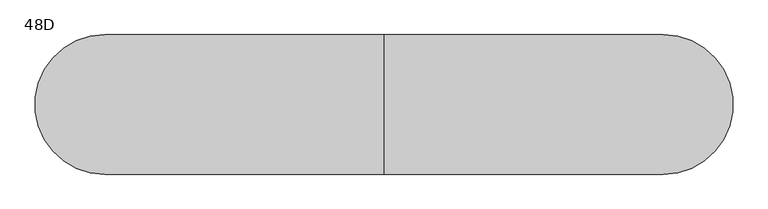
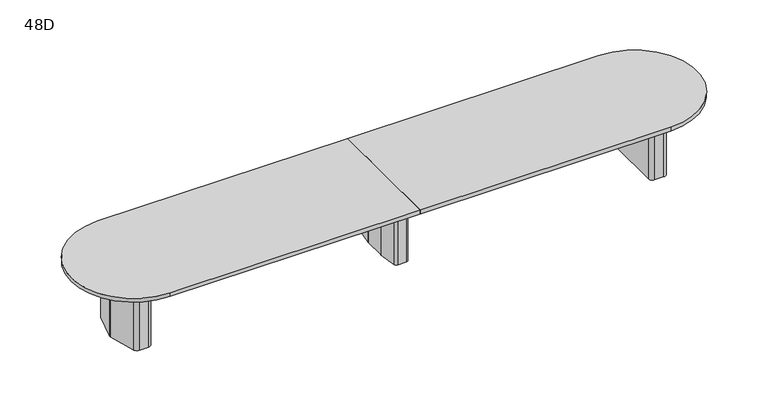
"""IFC4 building model written with IfcOpenShell, lengths in millimetres: furniture geometry, Coalesse_AM_Table_Conference_ETable2_Racetrack_20ft_ThreeBase : 48D."""

from ifc_helpers import new_model, si_unit, point, frame, frame_2d, origin, place, context, project, spatial, polyline, circle_curve, trimmed, segment, composite_curve, outline, extrude, source, transform, mapped, element, save
from ifc_brep_helpers import plane_surface, cylinder_surface, revolved_surface, advanced_brep


def furniture_48d_48fad50a(model_context):
    return source(origin(), model_context, "Body", "SolidModel", [
        advanced_brep(
        [(35.71875, 206.375, 3.175), (10.31875, 231.775, 3.175), (-10.31875, 231.775, 3.175), (-35.71875, 206.375, 3.175), (-35.71875, -206.375, 3.175), (-10.31875, -231.775, 3.175), (10.31875, -231.775, 3.175), (35.71875, -206.375, 3.175), (-61.11875, 206.375, 0.0), (-10.31875, 257.175, 0.0), (10.31875, 257.175, 0.0), (61.11875, 206.375, 0.0), (61.11875, -206.375, 0.0), (10.31875, -257.175, 0.0), (-10.31875, -257.175, 0.0), (-61.11875, -206.375, 0.0), (-61.11875, -206.375, 3.175), (-61.11875, 206.375, 3.175), (-10.31875, -257.175, 3.175), (10.31875, -257.175, 3.175), (61.11875, -206.375, 3.175), (61.11875, 206.375, 3.175), (10.31875, 257.175, 3.175), (-10.31875, 257.175, 3.175), (-92.6215974, 106.2976848, 698.5), (-92.86875, 102.7629613, 698.5), (-92.86875, -102.7629613, 698.5), (-92.6215974, -106.2976848, 698.5), (-67.7988375, -282.9347235, 698.5), (-42.6459902, -304.8, 698.5), (42.6459902, -304.8, 698.5), (67.7988375, -282.9347235, 698.5), (92.6215974, -106.2976848, 698.5), (92.86875, -102.7629613, 698.5), (92.86875, 102.7629613, 698.5), (92.6215974, 106.2976848, 698.5), (67.7988375, 282.9347235, 698.5), (42.6459902, 304.8, 698.5), (-42.6459902, 304.8, 698.5), (-67.7988375, 282.9347235, 698.5), (10.31875, 231.775, 698.5), (35.71875, 206.375, 698.5), (35.71875, -206.375, 698.5), (10.31875, -231.775, 698.5), (-10.31875, -231.775, 698.5), (-35.71875, -206.375, 698.5), (-35.71875, 206.375, 698.5), (-10.31875, 231.775, 698.5), (-92.6215974, 106.2976848, 3.175), (-67.7988375, 282.9347235, 3.175), (-42.6459902, 304.8, 3.175), (42.6459902, 304.8, 3.175), (67.7988375, 282.9347235, 3.175), (92.6215974, 106.2976848, 3.175), (92.86875, 102.7629613, 3.175), (92.86875, -102.7629613, 3.175), (92.6215974, -106.2976848, 3.175), (67.7988375, -282.9347235, 3.175), (42.6459902, -304.8, 3.175), (-42.6459902, -304.8, 3.175), (-67.7988375, -282.9347235, 3.175), (-92.6215974, -106.2976848, 3.175), (-92.86875, -102.7629613, 3.175), (-92.86875, 102.7629613, 3.175)],
        [
            (0, 1, circle_curve(frame((10.31875, 206.375, 3.175), z_axis=(0.0, 0.0, 1.0), x_axis=(1.0, 0.0, 0.0)), 25.4)),
            (1, 2),
            (2, 3, circle_curve(frame((-10.31875, 206.375, 3.175), z_axis=(0.0, 0.0, 1.0), x_axis=(1.0, 0.0, 0.0)), 25.4)),
            (3, 4),
            (4, 5, circle_curve(frame((-10.31875, -206.375, 3.175), z_axis=(0.0, 0.0, 1.0), x_axis=(1.0, 0.0, 0.0)), 25.4)),
            (5, 6),
            (6, 7, circle_curve(frame((10.31875, -206.375, 3.175), z_axis=(0.0, 0.0, 1.0), x_axis=(1.0, 0.0, 0.0)), 25.4)),
            (7, 0),
            (8, 9, circle_curve(frame((-10.31875, 206.375, 0.0), z_axis=(0.0, 0.0, -1.0), x_axis=(1.0, 0.0, 0.0)), 50.8)),
            (9, 10),
            (10, 11, circle_curve(frame((10.31875, 206.375, 0.0), z_axis=(0.0, 0.0, -1.0), x_axis=(1.0, 0.0, 0.0)), 50.8)),
            (11, 12),
            (12, 13, circle_curve(frame((10.31875, -206.375, 0.0), z_axis=(0.0, 0.0, -1.0), x_axis=(1.0, 0.0, 0.0)), 50.8)),
            (13, 14),
            (14, 15, circle_curve(frame((-10.31875, -206.375, 0.0), z_axis=(0.0, 0.0, -1.0), x_axis=(1.0, 0.0, 0.0)), 50.8)),
            (15, 8),
            (15, 16),
            (16, 17),
            (17, 8),
            (14, 18),
            (18, 16, circle_curve(frame((-10.31875, -206.375, 3.175), z_axis=(0.0, 0.0, -1.0), x_axis=(1.0, 0.0, 0.0)), 50.8)),
            (13, 19),
            (19, 18),
            (12, 20),
            (20, 19, circle_curve(frame((10.31875, -206.375, 3.175), z_axis=(0.0, 0.0, -1.0), x_axis=(1.0, 0.0, 0.0)), 50.8)),
            (11, 21),
            (21, 20),
            (10, 22),
            (22, 21, circle_curve(frame((10.31875, 206.375, 3.175), z_axis=(0.0, 0.0, -1.0), x_axis=(1.0, 0.0, 0.0)), 50.8)),
            (9, 23),
            (23, 22),
            (17, 23, circle_curve(frame((-10.31875, 206.375, 3.175), z_axis=(0.0, 0.0, -1.0), x_axis=(1.0, 0.0, 0.0)), 50.8)),
            (24, 25, circle_curve(frame((-67.46875, 102.7629613, 698.5), z_axis=(0.0, 0.0, 1.0), x_axis=(1.0, 0.0, 0.0)), 25.4)),
            (25, 26),
            (26, 27, circle_curve(frame((-67.46875, -102.7629613, 698.5), z_axis=(0.0, 0.0, 1.0), x_axis=(1.0, 0.0, 0.0)), 25.4)),
            (27, 28),
            (28, 29, circle_curve(frame((-42.6459902, -279.4, 698.5), z_axis=(0.0, 0.0, 1.0), x_axis=(1.0, 0.0, 0.0)), 25.4)),
            (29, 30),
            (30, 31, circle_curve(frame((42.6459902, -279.4, 698.5), z_axis=(0.0, 0.0, 1.0), x_axis=(1.0, 0.0, 0.0)), 25.4)),
            (31, 32),
            (32, 33, circle_curve(frame((67.46875, -102.7629613, 698.5), z_axis=(0.0, 0.0, 1.0), x_axis=(1.0, 0.0, 0.0)), 25.4)),
            (33, 34),
            (34, 35, circle_curve(frame((67.46875, 102.7629613, 698.5), z_axis=(0.0, 0.0, 1.0), x_axis=(1.0, 0.0, 0.0)), 25.4)),
            (35, 36),
            (36, 37, circle_curve(frame((42.6459902, 279.4, 698.5), z_axis=(0.0, 0.0, 1.0), x_axis=(1.0, 0.0, 0.0)), 25.4)),
            (37, 38),
            (38, 39, circle_curve(frame((-42.6459902, 279.4, 698.5), z_axis=(0.0, 0.0, 1.0), x_axis=(1.0, 0.0, 0.0)), 25.4)),
            (39, 24),
            (40, 41, circle_curve(frame((10.31875, 206.375, 698.5), z_axis=(0.0, 0.0, -1.0), x_axis=(1.0, 0.0, 0.0)), 25.4)),
            (41, 42),
            (42, 43, circle_curve(frame((10.31875, -206.375, 698.5), z_axis=(0.0, 0.0, -1.0), x_axis=(1.0, 0.0, 0.0)), 25.4)),
            (43, 44),
            (44, 45, circle_curve(frame((-10.31875, -206.375, 698.5), z_axis=(0.0, 0.0, -1.0), x_axis=(1.0, 0.0, 0.0)), 25.4)),
            (45, 46),
            (46, 47, circle_curve(frame((-10.31875, 206.375, 698.5), z_axis=(0.0, 0.0, -1.0), x_axis=(1.0, 0.0, 0.0)), 25.4)),
            (47, 40),
            (48, 49),
            (49, 50, circle_curve(frame((-42.6459902, 279.4, 3.175), z_axis=(0.0, 0.0, -1.0), x_axis=(1.0, 0.0, 0.0)), 25.4)),
            (50, 51),
            (51, 52, circle_curve(frame((42.6459902, 279.4, 3.175), z_axis=(0.0, 0.0, -1.0), x_axis=(1.0, 0.0, 0.0)), 25.4)),
            (52, 53),
            (53, 54, circle_curve(frame((67.46875, 102.7629613, 3.175), z_axis=(0.0, 0.0, -1.0), x_axis=(1.0, 0.0, 0.0)), 25.4)),
            (54, 55),
            (55, 56, circle_curve(frame((67.46875, -102.7629613, 3.175), z_axis=(0.0, 0.0, -1.0), x_axis=(1.0, 0.0, 0.0)), 25.4)),
            (56, 57),
            (57, 58, circle_curve(frame((42.6459902, -279.4, 3.175), z_axis=(0.0, 0.0, -1.0), x_axis=(1.0, 0.0, 0.0)), 25.4)),
            (58, 59),
            (59, 60, circle_curve(frame((-42.6459902, -279.4, 3.175), z_axis=(0.0, 0.0, -1.0), x_axis=(1.0, 0.0, 0.0)), 25.4)),
            (60, 61),
            (61, 62, circle_curve(frame((-67.46875, -102.7629613, 3.175), z_axis=(0.0, 0.0, -1.0), x_axis=(1.0, 0.0, 0.0)), 25.4)),
            (62, 63),
            (63, 48, circle_curve(frame((-67.46875, 102.7629613, 3.175), z_axis=(0.0, 0.0, -1.0), x_axis=(1.0, 0.0, 0.0)), 25.4)),
            (24, 48),
            (63, 25),
            (62, 26),
            (61, 27),
            (60, 28),
            (59, 29),
            (58, 30),
            (57, 31),
            (56, 32),
            (55, 33),
            (54, 34),
            (53, 35),
            (52, 36),
            (51, 37),
            (50, 38),
            (49, 39),
            (40, 1),
            (0, 41),
            (7, 42),
            (6, 43),
            (5, 44),
            (4, 45),
            (3, 46),
            (2, 47),
        ],
        [
            plane_surface(frame((-61.11875, -206.375, 3.175), z_axis=(0.0, 0.0, 1.0), x_axis=(0.0, -1.0, 0.0))),
            plane_surface(frame((-61.11875, -206.375, 0.0), z_axis=(0.0, 0.0, -1.0), x_axis=(0.0, 1.0, 0.0))),
            plane_surface(frame((-61.11875, 206.375, 3.175), z_axis=(-1.0, 0.0, 0.0), x_axis=(0.0, 0.0, -1.0))),
            cylinder_surface(frame((-10.31875, -206.375, 0.0), z_axis=(0.0, 0.0, 1.0), x_axis=(1.0, 0.0, 0.0)), 50.8),
            plane_surface(frame((-10.31875, -257.175, 3.175), z_axis=(0.0, -1.0, 0.0), x_axis=(0.0, 0.0, -1.0))),
            cylinder_surface(frame((10.31875, -206.375, 0.0), z_axis=(0.0, 0.0, 1.0), x_axis=(1.0, 0.0, 0.0)), 50.8),
            plane_surface(frame((61.11875, -206.375, 3.175), z_axis=(1.0, 0.0, 0.0), x_axis=(0.0, 0.0, -1.0))),
            cylinder_surface(frame((10.31875, 206.375, 0.0), z_axis=(0.0, 0.0, 1.0), x_axis=(1.0, 0.0, 0.0)), 50.8),
            plane_surface(frame((10.31875, 257.175, 3.175), z_axis=(0.0, 1.0, 0.0), x_axis=(0.0, 0.0, -1.0))),
            cylinder_surface(frame((-10.31875, 206.375, 0.0), z_axis=(0.0, 0.0, 1.0), x_axis=(1.0, 0.0, 0.0)), 50.8),
            plane_surface(frame((-42.06875, 102.7629613, 698.5), z_axis=(0.0, 0.0, 1.0), x_axis=(0.0, 1.0, 0.0))),
            plane_surface(frame((-42.06875, 102.7629613, 3.175), z_axis=(0.0, 0.0, -1.0), x_axis=(0.0, -1.0, 0.0))),
            cylinder_surface(frame((-67.46875, 102.7629613, 3.175), z_axis=(0.0, 0.0, 1.0), x_axis=(1.0, 0.0, 0.0)), 25.4),
            plane_surface(frame((-92.86875, 102.7629613, 698.5), z_axis=(-1.0, 0.0, 0.0), x_axis=(0.0, 0.0, -1.0))),
            cylinder_surface(frame((-67.46875, -102.7629613, 3.175), z_axis=(0.0, 0.0, 1.0), x_axis=(1.0, 0.0, 0.0)), 25.4),
            plane_surface(frame((-92.6215974, -106.2976848, 698.5), z_axis=(-0.9902695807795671, -0.13916234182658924, 0.0), x_axis=(0.0, 0.0, -1.0))),
            cylinder_surface(frame((-42.6459902, -279.4, 3.175), z_axis=(0.0, 0.0, 1.0), x_axis=(1.0, 0.0, 0.0)), 25.4),
            plane_surface(frame((-42.6459902, -304.8, 698.5), z_axis=(0.0, -1.0, 0.0), x_axis=(0.0, 0.0, -1.0))),
            cylinder_surface(frame((42.6459902, -279.4, 3.175), z_axis=(0.0, 0.0, 1.0), x_axis=(1.0, 0.0, 0.0)), 25.4),
            plane_surface(frame((67.7988375, -282.9347235, 698.5), z_axis=(0.9902695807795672, -0.13916234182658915, 0.0), x_axis=(0.0, 0.0, -1.0))),
            cylinder_surface(frame((67.46875, -102.7629613, 3.175), z_axis=(0.0, 0.0, 1.0), x_axis=(1.0, 0.0, 0.0)), 25.4),
            plane_surface(frame((92.86875, -102.7629613, 698.5), z_axis=(1.0, 0.0, 0.0), x_axis=(0.0, 0.0, -1.0))),
            cylinder_surface(frame((67.46875, 102.7629613, 3.175), z_axis=(0.0, 0.0, 1.0), x_axis=(1.0, 0.0, 0.0)), 25.4),
            plane_surface(frame((92.6215974, 106.2976848, 698.5), z_axis=(0.9902695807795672, 0.1391623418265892, 0.0), x_axis=(0.0, 0.0, -1.0))),
            cylinder_surface(frame((42.6459902, 279.4, 3.175), z_axis=(0.0, 0.0, 1.0), x_axis=(1.0, 0.0, 0.0)), 25.4),
            plane_surface(frame((42.6459902, 304.8, 698.5), z_axis=(0.0, 1.0, 0.0), x_axis=(0.0, 0.0, -1.0))),
            cylinder_surface(frame((-42.6459902, 279.4, 3.175), z_axis=(0.0, 0.0, 1.0), x_axis=(1.0, 0.0, 0.0)), 25.4),
            plane_surface(frame((-67.7988375, 282.9347235, 698.5), z_axis=(-0.9902695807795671, 0.13916234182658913, 0.0), x_axis=(0.0, 0.0, -1.0))),
            revolved_surface(polyline([(35.71875, 206.375, 3.175), (35.71875, 206.375, 698.5)]), (10.31875, 206.375, 0.0), (0.0, 0.0, -1.0)),
            plane_surface(frame((35.71875, 206.375, 698.5), z_axis=(-1.0, 0.0, 0.0), x_axis=(0.0, 0.0, -1.0))),
            revolved_surface(polyline([(35.71875, -206.375, 3.175), (35.71875, -206.375, 698.5)]), (10.31875, -206.375, 0.0), (0.0, 0.0, -1.0)),
            plane_surface(frame((10.31875, -231.775, 698.5), z_axis=(0.0, 1.0, 0.0), x_axis=(0.0, 0.0, -1.0))),
            revolved_surface(polyline([(15.081249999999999, -206.375, 3.175), (15.081249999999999, -206.375, 698.5)]), (-10.31875, -206.375, 0.0), (0.0, 0.0, -1.0)),
            plane_surface(frame((-35.71875, -206.375, 698.5), z_axis=(1.0, 0.0, 0.0), x_axis=(0.0, 0.0, -1.0))),
            revolved_surface(polyline([(15.081249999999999, 206.375, 3.175), (15.081249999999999, 206.375, 698.5)]), (-10.31875, 206.375, 0.0), (0.0, 0.0, -1.0)),
            plane_surface(frame((-10.31875, 231.775, 698.5), z_axis=(0.0, -1.0, 0.0), x_axis=(0.0, 0.0, -1.0))),
        ],
        [
            (0, [[1, 2, 3, 4, 5, 6, 7, 8]]),
            (1, [[9, 10, 11, 12, 13, 14, 15, 16]]),
            (2, [[-16, 17, 18, 19]]),
            (3, [[-15, 20, 21, -17]]),
            (4, [[-14, 22, 23, -20]]),
            (5, [[-13, 24, 25, -22]]),
            (6, [[-12, 26, 27, -24]]),
            (7, [[-11, 28, 29, -26]]),
            (8, [[-10, 30, 31, -28]]),
            (9, [[-9, -19, 32, -30]]),
            (10, [[33, 34, 35, 36, 37, 38, 39, 40, 41, 42, 43, 44, 45, 46, 47, 48], [49, 50, 51, 52, 53, 54, 55, 56]]),
            (11, [[57, 58, 59, 60, 61, 62, 63, 64, 65, 66, 67, 68, 69, 70, 71, 72], [-18, -21, -23, -25, -27, -29, -31, -32]]),
            (12, [[-33, 73, -72, 74]]),
            (13, [[-34, -74, -71, 75]]),
            (14, [[-35, -75, -70, 76]]),
            (15, [[-36, -76, -69, 77]]),
            (16, [[-37, -77, -68, 78]]),
            (17, [[-38, -78, -67, 79]]),
            (18, [[-39, -79, -66, 80]]),
            (19, [[-40, -80, -65, 81]]),
            (20, [[-41, -81, -64, 82]]),
            (21, [[-42, -82, -63, 83]]),
            (22, [[-43, -83, -62, 84]]),
            (23, [[-44, -84, -61, 85]]),
            (24, [[-45, -85, -60, 86]]),
            (25, [[-46, -86, -59, 87]]),
            (26, [[-47, -87, -58, 88]]),
            (27, [[-48, -88, -57, -73]]),
            (28, [[-49, 89, -1, 90]]),
            (29, [[-50, -90, -8, 91]]),
            (30, [[-51, -91, -7, 92]]),
            (31, [[-52, -92, -6, 93]]),
            (32, [[-53, -93, -5, 94]]),
            (33, [[-54, -94, -4, 95]]),
            (34, [[-55, -95, -3, 96]]),
            (35, [[-56, -96, -2, -89]]),
        ],
    ),
        advanced_brep(
        [(2589.424548, 274.2093613, 698.5), (2549.5579246, 304.8, 698.5), (2460.625, 304.8, 698.5), (2419.35, 263.525, 698.5), (2419.35, -263.525, 698.5), (2460.625, -304.8, 698.5), (2549.5579246, -304.8, 698.5), (2589.424548, -274.2093613, 698.5), (2660.0503901, -10.6333708, 698.5), (2660.0503901, 10.6333708, 698.5), (2457.45, -206.375, 698.5), (2457.45, 206.375, 698.5), (2482.85, 231.775, 698.5), (2541.8608422, 231.775, 698.5), (2566.395338, 212.9490792, 698.5), (2605.0875, 68.54974, 698.5), (2605.0875, -68.54974, 698.5), (2566.395338, -212.9490792, 698.5), (2541.8608422, -231.775, 698.5), (2482.85, -231.775, 698.5), (2589.424548, 274.2093613, 3.175), (2660.0503901, 10.6333708, 3.175), (2660.0503901, -10.6333708, 3.175), (2589.424548, -274.2093613, 3.175), (2549.5579246, -304.8, 3.175), (2460.625, -304.8, 3.175), (2419.35, -263.525, 3.175), (2419.35, 263.525, 3.175), (2460.625, 304.8, 3.175), (2549.5579246, 304.8, 3.175), (2578.6625859, 216.2361187, 3.175), (2541.8608422, 244.475, 3.175), (2482.85, 244.475, 3.175), (2444.75, 206.375, 3.175), (2444.75, -206.375, 3.175), (2482.85, -244.475, 3.175), (2541.8608422, -244.475, 3.175), (2578.6625859, -216.2361187, 3.175), (2617.7875, -70.2217466, 3.175), (2617.7875, 70.2217466, 3.175), (2482.85, -231.775, 3.175), (2457.45, -206.375, 3.175), (2541.8608422, -231.775, 3.175), (2566.395338, -212.9490792, 3.175), (2605.0875, -68.54974, 3.175), (2605.0875, 68.54974, 3.175), (2566.395338, 212.9490792, 3.175), (2541.8608422, 231.775, 3.175), (2482.85, 231.775, 3.175), (2457.45, 206.375, 3.175), (2578.6625859, 216.2361187, 0.0), (2617.7875, 70.2217466, 0.0), (2617.7875, -70.2217466, 0.0), (2578.6625859, -216.2361187, 0.0), (2541.8608422, -244.475, 0.0), (2482.85, -244.475, 0.0), (2444.75, -206.375, 0.0), (2444.75, 206.375, 0.0), (2482.85, 244.475, 0.0), (2541.8608422, 244.475, 0.0)],
        [
            (0, 1, circle_curve(frame((2549.5579246, 263.5270004, 698.5), z_axis=(0.0, 0.0, 1.0), x_axis=(-1.0, 0.0, 0.0)), 41.2729996)),
            (1, 2),
            (2, 3, circle_curve(frame((2460.625, 263.525, 698.5), z_axis=(0.0, 0.0, 1.0), x_axis=(-1.0, 0.0, 0.0)), 41.275)),
            (3, 4),
            (4, 5, circle_curve(frame((2460.625, -263.525, 698.5), z_axis=(0.0, 0.0, 1.0), x_axis=(-1.0, 0.0, 0.0)), 41.275)),
            (5, 6),
            (6, 7, circle_curve(frame((2549.5579246, -263.5270004, 698.5), z_axis=(0.0, 0.0, 1.0), x_axis=(-1.0, 0.0, 0.0)), 41.2729996)),
            (7, 8),
            (8, 9, circle_curve(frame((2620.3665979, 0.0, 698.5), z_axis=(0.0, 0.0, 1.0), x_axis=(-1.0, 0.0, 0.0)), 41.0837187)),
            (9, 0),
            (10, 11),
            (11, 12, circle_curve(frame((2482.85, 206.375, 698.5), z_axis=(0.0, 0.0, -1.0), x_axis=(-1.0, 0.0, 0.0)), 25.4)),
            (12, 13),
            (13, 14, circle_curve(frame((2541.8608422, 206.375, 698.5), z_axis=(0.0, 0.0, -1.0), x_axis=(-1.0, 0.0, 0.0)), 25.4)),
            (14, 15),
            (15, 16),
            (16, 17),
            (17, 18, circle_curve(frame((2541.8608422, -206.375, 698.5), z_axis=(0.0, 0.0, -1.0), x_axis=(-1.0, 0.0, 0.0)), 25.4)),
            (18, 19),
            (19, 10, circle_curve(frame((2482.85, -206.375, 698.5), z_axis=(0.0, 0.0, -1.0), x_axis=(-1.0, 0.0, 0.0)), 25.4)),
            (20, 21),
            (21, 22, circle_curve(frame((2620.3665979, 0.0, 3.175), z_axis=(0.0, 0.0, -1.0), x_axis=(-1.0, 0.0, 0.0)), 41.0837187)),
            (22, 23),
            (23, 24, circle_curve(frame((2549.5579246, -263.5270004, 3.175), z_axis=(0.0, 0.0, -1.0), x_axis=(-1.0, 0.0, 0.0)), 41.2729996)),
            (24, 25),
            (25, 26, circle_curve(frame((2460.625, -263.525, 3.175), z_axis=(0.0, 0.0, -1.0), x_axis=(-1.0, 0.0, 0.0)), 41.275)),
            (26, 27),
            (27, 28, circle_curve(frame((2460.625, 263.525, 3.175), z_axis=(0.0, 0.0, -1.0), x_axis=(-1.0, 0.0, 0.0)), 41.275)),
            (28, 29),
            (29, 20, circle_curve(frame((2549.5579246, 263.5270004, 3.175), z_axis=(0.0, 0.0, -1.0), x_axis=(-1.0, 0.0, 0.0)), 41.2729996)),
            (30, 31, circle_curve(frame((2541.8608422, 206.375, 3.175), z_axis=(0.0, 0.0, 1.0), x_axis=(-1.0, 0.0, 0.0)), 38.1)),
            (31, 32),
            (32, 33, circle_curve(frame((2482.85, 206.375, 3.175), z_axis=(0.0, 0.0, 1.0), x_axis=(-1.0, 0.0, 0.0)), 38.1)),
            (33, 34),
            (34, 35, circle_curve(frame((2482.85, -206.375, 3.175), z_axis=(0.0, 0.0, 1.0), x_axis=(-1.0, 0.0, 0.0)), 38.1)),
            (35, 36),
            (36, 37, circle_curve(frame((2541.8608422, -206.375, 3.175), z_axis=(0.0, 0.0, 1.0), x_axis=(-1.0, 0.0, 0.0)), 38.1)),
            (37, 38),
            (38, 39),
            (39, 30),
            (9, 21),
            (20, 0),
            (8, 22),
            (7, 23),
            (6, 24),
            (5, 25),
            (4, 26),
            (3, 27),
            (2, 28),
            (1, 29),
            (19, 40),
            (40, 41, circle_curve(frame((2482.85, -206.375, 3.175), z_axis=(0.0, 0.0, -1.0), x_axis=(-1.0, 0.0, 0.0)), 25.4)),
            (41, 10),
            (18, 42),
            (42, 40),
            (17, 43),
            (43, 42, circle_curve(frame((2541.8608422, -206.375, 3.175), z_axis=(0.0, 0.0, -1.0), x_axis=(-1.0, 0.0, 0.0)), 25.4)),
            (16, 44),
            (44, 43),
            (15, 45),
            (45, 44),
            (14, 46),
            (46, 45),
            (13, 47),
            (47, 46, circle_curve(frame((2541.8608422, 206.375, 3.175), z_axis=(0.0, 0.0, -1.0), x_axis=(-1.0, 0.0, 0.0)), 25.4)),
            (12, 48),
            (48, 47),
            (11, 49),
            (49, 48, circle_curve(frame((2482.85, 206.375, 3.175), z_axis=(0.0, 0.0, -1.0), x_axis=(-1.0, 0.0, 0.0)), 25.4)),
            (41, 49),
            (50, 51),
            (51, 52),
            (52, 53),
            (53, 54, circle_curve(frame((2541.8608422, -206.375, 0.0), z_axis=(0.0, 0.0, -1.0), x_axis=(-1.0, 0.0, 0.0)), 38.1)),
            (54, 55),
            (55, 56, circle_curve(frame((2482.85, -206.375, 0.0), z_axis=(0.0, 0.0, -1.0), x_axis=(-1.0, 0.0, 0.0)), 38.1)),
            (56, 57),
            (57, 58, circle_curve(frame((2482.85, 206.375, 0.0), z_axis=(0.0, 0.0, -1.0), x_axis=(-1.0, 0.0, 0.0)), 38.1)),
            (58, 59),
            (59, 50, circle_curve(frame((2541.8608422, 206.375, 0.0), z_axis=(0.0, 0.0, -1.0), x_axis=(-1.0, 0.0, 0.0)), 38.1)),
            (50, 30),
            (39, 51),
            (38, 52),
            (37, 53),
            (36, 54),
            (35, 55),
            (34, 56),
            (33, 57),
            (32, 58),
            (31, 59),
        ],
        [
            plane_surface(frame((2660.0374275, 10.6817473, 698.5), z_axis=(0.0, 0.0, 1.0000000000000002), x_axis=(0.25882201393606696, -0.9659250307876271, 0.0))),
            plane_surface(frame((2660.0374275, 10.6817473, 3.175), z_axis=(0.0, 0.0, -1.0000000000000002), x_axis=(-0.25882201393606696, 0.9659250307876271, 0.0))),
            plane_surface(frame((2589.424548, 274.2093613, 698.5), z_axis=(0.9659250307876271, 0.25882201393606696, 0.0), x_axis=(0.0, 0.0, -1.0))),
            cylinder_surface(frame((2620.3665979, 0.0, 3.175), z_axis=(0.0, 0.0, 1.0), x_axis=(-1.0, 0.0, 0.0)), 41.0837187),
            plane_surface(frame((2660.0503901, -10.6333708, 698.5), z_axis=(0.9659250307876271, -0.2588220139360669, 0.0), x_axis=(0.0, 0.0, -1.0))),
            cylinder_surface(frame((2549.5579246, -263.5270004, 3.175), z_axis=(0.0, 0.0, 1.0), x_axis=(-1.0, 0.0, 0.0)), 41.2729996),
            plane_surface(frame((2549.5579246, -304.8, 698.5), z_axis=(0.0, -1.0, 0.0), x_axis=(0.0, 0.0, -1.0))),
            cylinder_surface(frame((2460.625, -263.525, 3.175), z_axis=(0.0, 0.0, 1.0), x_axis=(-1.0, 0.0, 0.0)), 41.275),
            plane_surface(frame((2419.35, -263.525, 698.5), z_axis=(-1.0, 0.0, 0.0), x_axis=(0.0, 0.0, -1.0))),
            cylinder_surface(frame((2460.625, 263.525, 3.175), z_axis=(0.0, 0.0, 1.0), x_axis=(-1.0, 0.0, 0.0)), 41.275),
            plane_surface(frame((2460.625, 304.8, 698.5), z_axis=(0.0, 1.0, 0.0), x_axis=(0.0, 0.0, -1.0))),
            cylinder_surface(frame((2549.5579246, 263.5270004, 3.175), z_axis=(0.0, 0.0, 1.0), x_axis=(-1.0, 0.0, 0.0)), 41.2729996),
            revolved_surface(polyline([(2457.45, -206.375, 3.175), (2457.45, -206.375, 698.5)]), (2482.85, -206.375, 0.0), (0.0, 0.0, -1.0)),
            plane_surface(frame((2482.85, -231.775, 698.5), z_axis=(0.0, 1.0, 0.0), x_axis=(0.0, 0.0, -1.0))),
            revolved_surface(polyline([(2516.4608422, -206.375, 3.175), (2516.4608422, -206.375, 698.5)]), (2541.8608422, -206.375, 0.0), (0.0, 0.0, -1.0)),
            plane_surface(frame((2566.395338, -212.9490792, 698.5), z_axis=(-0.9659250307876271, 0.2588220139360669, 0.0), x_axis=(0.0, 0.0, -1.0))),
            plane_surface(frame((2605.0875, -68.54974, 698.5), z_axis=(-1.0, 0.0, 0.0), x_axis=(0.0, 0.0, -1.0))),
            plane_surface(frame((2605.0875, 68.54974, 698.5), z_axis=(-0.9659250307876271, -0.25882201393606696, 0.0), x_axis=(0.0, 0.0, -1.0))),
            revolved_surface(polyline([(2516.4608422, 206.375, 3.175), (2516.4608422, 206.375, 698.5)]), (2541.8608422, 206.375, 0.0), (0.0, 0.0, -1.0)),
            plane_surface(frame((2541.8608422, 231.775, 698.5), z_axis=(0.0, -1.0, 0.0), x_axis=(0.0, 0.0, -1.0))),
            revolved_surface(polyline([(2457.45, 206.375, 3.175), (2457.45, 206.375, 698.5)]), (2482.85, 206.375, 0.0), (0.0, 0.0, -1.0)),
            plane_surface(frame((2457.45, 206.375, 698.5), z_axis=(1.0, 0.0, 0.0), x_axis=(0.0, 0.0, -1.0))),
            plane_surface(frame((2617.3547479, 71.8367796, 3.175), z_axis=(0.0, 0.0, 1.0), x_axis=(0.25882201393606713, -0.965925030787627, 0.0))),
            plane_surface(frame((2617.3547479, 71.8367796, 0.0), z_axis=(0.0, 0.0, -1.0), x_axis=(-0.25882201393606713, 0.965925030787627, 0.0))),
            plane_surface(frame((2578.6625859, 216.2361187, 3.175), z_axis=(0.965925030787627, 0.25882201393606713, 0.0), x_axis=(0.0, 0.0, -1.0))),
            plane_surface(frame((2617.7875, 70.2217466, 3.175), z_axis=(1.0, 0.0, 0.0), x_axis=(0.0, 0.0, -1.0))),
            plane_surface(frame((2617.7875, -70.2217466, 3.175), z_axis=(0.9659250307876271, -0.2588220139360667, 0.0), x_axis=(0.0, 0.0, -1.0))),
            cylinder_surface(frame((2541.8608422, -206.375, 0.0), z_axis=(0.0, 0.0, 1.0), x_axis=(-1.0, 0.0, 0.0)), 38.1),
            plane_surface(frame((2541.8608422, -244.475, 3.175), z_axis=(0.0, -1.0, 0.0), x_axis=(0.0, 0.0, -1.0))),
            cylinder_surface(frame((2482.85, -206.375, 0.0), z_axis=(0.0, 0.0, 1.0), x_axis=(-1.0, 0.0, 0.0)), 38.1),
            plane_surface(frame((2444.75, -206.375, 3.175), z_axis=(-1.0, 0.0, 0.0), x_axis=(0.0, 0.0, -1.0))),
            cylinder_surface(frame((2482.85, 206.375, 0.0), z_axis=(0.0, 0.0, 1.0), x_axis=(-1.0, 0.0, 0.0)), 38.1),
            plane_surface(frame((2482.85, 244.475, 3.175), z_axis=(0.0, 1.0, 0.0), x_axis=(0.0, 0.0, -1.0))),
            cylinder_surface(frame((2541.8608422, 206.375, 0.0), z_axis=(0.0, 0.0, 1.0), x_axis=(-1.0, 0.0, 0.0)), 38.1),
        ],
        [
            (0, [[1, 2, 3, 4, 5, 6, 7, 8, 9, 10], [11, 12, 13, 14, 15, 16, 17, 18, 19, 20]]),
            (1, [[21, 22, 23, 24, 25, 26, 27, 28, 29, 30], [31, 32, 33, 34, 35, 36, 37, 38, 39, 40]]),
            (2, [[41, -21, 42, -10]]),
            (3, [[43, -22, -41, -9]]),
            (4, [[44, -23, -43, -8]]),
            (5, [[45, -24, -44, -7]]),
            (6, [[46, -25, -45, -6]]),
            (7, [[47, -26, -46, -5]]),
            (8, [[48, -27, -47, -4]]),
            (9, [[49, -28, -48, -3]]),
            (10, [[50, -29, -49, -2]]),
            (11, [[-42, -30, -50, -1]]),
            (12, [[51, 52, 53, -20]]),
            (13, [[54, 55, -51, -19]]),
            (14, [[56, 57, -54, -18]]),
            (15, [[58, 59, -56, -17]]),
            (16, [[60, 61, -58, -16]]),
            (17, [[62, 63, -60, -15]]),
            (18, [[64, 65, -62, -14]]),
            (19, [[66, 67, -64, -13]]),
            (20, [[68, 69, -66, -12]]),
            (21, [[-53, 70, -68, -11]]),
            (22, [[-55, -57, -59, -61, -63, -65, -67, -69, -70, -52]]),
            (23, [[71, 72, 73, 74, 75, 76, 77, 78, 79, 80]]),
            (24, [[81, -40, 82, -71]]),
            (25, [[-82, -39, 83, -72]]),
            (26, [[-83, -38, 84, -73]]),
            (27, [[-84, -37, 85, -74]]),
            (28, [[-85, -36, 86, -75]]),
            (29, [[-86, -35, 87, -76]]),
            (30, [[-87, -34, 88, -77]]),
            (31, [[-88, -33, 89, -78]]),
            (32, [[-89, -32, 90, -79]]),
            (33, [[-90, -31, -81, -80]]),
        ],
    ),
        advanced_brep(
        [(-2600.537048, 274.2093613, 698.5), (-2671.1628901, 10.6333708, 698.5), (-2671.1628901, -10.6333708, 698.5), (-2600.537048, -274.2093613, 698.5), (-2560.6704246, -304.8, 698.5), (-2471.7375, -304.8, 698.5), (-2430.4625, -263.525, 698.5), (-2430.4625, 263.525, 698.5), (-2471.7375, 304.8, 698.5), (-2560.6704246, 304.8, 698.5), (-2468.5625, -206.375, 698.5), (-2493.9625, -231.775, 698.5), (-2552.9733422, -231.775, 698.5), (-2577.507838, -212.9490792, 698.5), (-2616.2, -68.54974, 698.5), (-2616.2, 68.54974, 698.5), (-2577.507838, 212.9490792, 698.5), (-2552.9733422, 231.775, 698.5), (-2493.9625, 231.775, 698.5), (-2468.5625, 206.375, 698.5), (-2600.537048, 274.2093613, 3.175), (-2560.6704246, 304.8, 3.175), (-2471.7375, 304.8, 3.175), (-2430.4625, 263.525, 3.175), (-2430.4625, -263.525, 3.175), (-2471.7375, -304.8, 3.175), (-2560.6704246, -304.8, 3.175), (-2600.537048, -274.2093613, 3.175), (-2671.1628901, -10.6333708, 3.175), (-2671.1628901, 10.6333708, 3.175), (-2589.7750859, 216.2361187, 3.175), (-2628.9, 70.2217466, 3.175), (-2628.9, -70.2217466, 3.175), (-2589.7750859, -216.2361187, 3.175), (-2552.9733422, -244.475, 3.175), (-2493.9625, -244.475, 3.175), (-2455.8625, -206.375, 3.175), (-2455.8625, 206.375, 3.175), (-2493.9625, 244.475, 3.175), (-2552.9733422, 244.475, 3.175), (-2468.5625, -206.375, 3.175), (-2493.9625, -231.775, 3.175), (-2552.9733422, -231.775, 3.175), (-2577.507838, -212.9490792, 3.175), (-2616.2, -68.54974, 3.175), (-2616.2, 68.54974, 3.175), (-2577.507838, 212.9490792, 3.175), (-2552.9733422, 231.775, 3.175), (-2493.9625, 231.775, 3.175), (-2468.5625, 206.375, 3.175), (-2589.7750859, 216.2361187, 0.0), (-2552.9733422, 244.475, 0.0), (-2493.9625, 244.475, 0.0), (-2455.8625, 206.375, 0.0), (-2455.8625, -206.375, 0.0), (-2493.9625, -244.475, 0.0), (-2552.9733422, -244.475, 0.0), (-2589.7750859, -216.2361187, 0.0), (-2628.9, -70.2217466, 0.0), (-2628.9, 70.2217466, 0.0)],
        [
            (0, 1),
            (1, 2, circle_curve(frame((-2631.4790979, 0.0, 698.5), z_axis=(0.0, 0.0, 1.0), x_axis=(1.0, 0.0, 0.0)), 41.0837187)),
            (2, 3),
            (3, 4, circle_curve(frame((-2560.6704246, -263.5270004, 698.5), z_axis=(0.0, 0.0, 1.0), x_axis=(1.0, 0.0, 0.0)), 41.2729996)),
            (4, 5),
            (5, 6, circle_curve(frame((-2471.7375, -263.525, 698.5), z_axis=(0.0, 0.0, 1.0), x_axis=(1.0, 0.0, 0.0)), 41.275)),
            (6, 7),
            (7, 8, circle_curve(frame((-2471.7375, 263.525, 698.5), z_axis=(0.0, 0.0, 1.0), x_axis=(1.0, 0.0, 0.0)), 41.275)),
            (8, 9),
            (9, 0, circle_curve(frame((-2560.6704246, 263.5270004, 698.5), z_axis=(0.0, 0.0, 1.0), x_axis=(1.0, 0.0, 0.0)), 41.2729996)),
            (10, 11, circle_curve(frame((-2493.9625, -206.375, 698.5), z_axis=(0.0, 0.0, -1.0), x_axis=(1.0, 0.0, 0.0)), 25.4)),
            (11, 12),
            (12, 13, circle_curve(frame((-2552.9733422, -206.375, 698.5), z_axis=(0.0, 0.0, -1.0), x_axis=(1.0, 0.0, 0.0)), 25.4)),
            (13, 14),
            (14, 15),
            (15, 16),
            (16, 17, circle_curve(frame((-2552.9733422, 206.375, 698.5), z_axis=(0.0, 0.0, -1.0), x_axis=(1.0, 0.0, 0.0)), 25.4)),
            (17, 18),
            (18, 19, circle_curve(frame((-2493.9625, 206.375, 698.5), z_axis=(0.0, 0.0, -1.0), x_axis=(1.0, 0.0, 0.0)), 25.4)),
            (19, 10),
            (20, 21, circle_curve(frame((-2560.6704246, 263.5270004, 3.175), z_axis=(0.0, 0.0, -1.0), x_axis=(1.0, 0.0, 0.0)), 41.2729996)),
            (21, 22),
            (22, 23, circle_curve(frame((-2471.7375, 263.525, 3.175), z_axis=(0.0, 0.0, -1.0), x_axis=(1.0, 0.0, 0.0)), 41.275)),
            (23, 24),
            (24, 25, circle_curve(frame((-2471.7375, -263.525, 3.175), z_axis=(0.0, 0.0, -1.0), x_axis=(1.0, 0.0, 0.0)), 41.275)),
            (25, 26),
            (26, 27, circle_curve(frame((-2560.6704246, -263.5270004, 3.175), z_axis=(0.0, 0.0, -1.0), x_axis=(1.0, 0.0, 0.0)), 41.2729996)),
            (27, 28),
            (28, 29, circle_curve(frame((-2631.4790979, 0.0, 3.175), z_axis=(0.0, 0.0, -1.0), x_axis=(1.0, 0.0, 0.0)), 41.0837187)),
            (29, 20),
            (30, 31),
            (31, 32),
            (32, 33),
            (33, 34, circle_curve(frame((-2552.9733422, -206.375, 3.175), z_axis=(0.0, 0.0, 1.0), x_axis=(1.0, 0.0, 0.0)), 38.1)),
            (34, 35),
            (35, 36, circle_curve(frame((-2493.9625, -206.375, 3.175), z_axis=(0.0, 0.0, 1.0), x_axis=(1.0, 0.0, 0.0)), 38.1)),
            (36, 37),
            (37, 38, circle_curve(frame((-2493.9625, 206.375, 3.175), z_axis=(0.0, 0.0, 1.0), x_axis=(1.0, 0.0, 0.0)), 38.1)),
            (38, 39),
            (39, 30, circle_curve(frame((-2552.9733422, 206.375, 3.175), z_axis=(0.0, 0.0, 1.0), x_axis=(1.0, 0.0, 0.0)), 38.1)),
            (0, 20),
            (29, 1),
            (28, 2),
            (27, 3),
            (26, 4),
            (25, 5),
            (24, 6),
            (23, 7),
            (22, 8),
            (21, 9),
            (10, 40),
            (40, 41, circle_curve(frame((-2493.9625, -206.375, 3.175), z_axis=(0.0, 0.0, -1.0), x_axis=(1.0, 0.0, 0.0)), 25.4)),
            (41, 11),
            (41, 42),
            (42, 12),
            (42, 43, circle_curve(frame((-2552.9733422, -206.375, 3.175), z_axis=(0.0, 0.0, -1.0), x_axis=(1.0, 0.0, 0.0)), 25.4)),
            (43, 13),
            (43, 44),
            (44, 14),
            (44, 45),
            (45, 15),
            (45, 46),
            (46, 16),
            (46, 47, circle_curve(frame((-2552.9733422, 206.375, 3.175), z_axis=(0.0, 0.0, -1.0), x_axis=(1.0, 0.0, 0.0)), 25.4)),
            (47, 17),
            (47, 48),
            (48, 18),
            (48, 49, circle_curve(frame((-2493.9625, 206.375, 3.175), z_axis=(0.0, 0.0, -1.0), x_axis=(1.0, 0.0, 0.0)), 25.4)),
            (49, 19),
            (49, 40),
            (50, 51, circle_curve(frame((-2552.9733422, 206.375, 0.0), z_axis=(0.0, 0.0, -1.0), x_axis=(1.0, 0.0, 0.0)), 38.1)),
            (51, 52),
            (52, 53, circle_curve(frame((-2493.9625, 206.375, 0.0), z_axis=(0.0, 0.0, -1.0), x_axis=(1.0, 0.0, 0.0)), 38.1)),
            (53, 54),
            (54, 55, circle_curve(frame((-2493.9625, -206.375, 0.0), z_axis=(0.0, 0.0, -1.0), x_axis=(1.0, 0.0, 0.0)), 38.1)),
            (55, 56),
            (56, 57, circle_curve(frame((-2552.9733422, -206.375, 0.0), z_axis=(0.0, 0.0, -1.0), x_axis=(1.0, 0.0, 0.0)), 38.1)),
            (57, 58),
            (58, 59),
            (59, 50),
            (59, 31),
            (30, 50),
            (58, 32),
            (57, 33),
            (56, 34),
            (55, 35),
            (54, 36),
            (53, 37),
            (52, 38),
            (51, 39),
        ],
        [
            plane_surface(frame((-2671.1499275, 10.6817473, 698.5), z_axis=(0.0, 0.0, 1.0000000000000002), x_axis=(-0.25882201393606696, -0.9659250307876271, 0.0))),
            plane_surface(frame((-2671.1499275, 10.6817473, 3.175), z_axis=(0.0, 0.0, -1.0000000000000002), x_axis=(0.25882201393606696, 0.9659250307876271, 0.0))),
            plane_surface(frame((-2600.537048, 274.2093613, 698.5), z_axis=(-0.9659250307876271, 0.25882201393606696, 0.0), x_axis=(0.0, 0.0, -1.0))),
            cylinder_surface(frame((-2631.4790979, 0.0, 3.175), z_axis=(0.0, 0.0, 1.0), x_axis=(1.0, 0.0, 0.0)), 41.0837187),
            plane_surface(frame((-2671.1628901, -10.6333708, 698.5), z_axis=(-0.9659250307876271, -0.2588220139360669, 0.0), x_axis=(0.0, 0.0, -1.0))),
            cylinder_surface(frame((-2560.6704246, -263.5270004, 3.175), z_axis=(0.0, 0.0, 1.0), x_axis=(1.0, 0.0, 0.0)), 41.2729996),
            plane_surface(frame((-2560.6704246, -304.8, 698.5), z_axis=(0.0, -1.0, 0.0), x_axis=(0.0, 0.0, -1.0))),
            cylinder_surface(frame((-2471.7375, -263.525, 3.175), z_axis=(0.0, 0.0, 1.0), x_axis=(1.0, 0.0, 0.0)), 41.275),
            plane_surface(frame((-2430.4625, -263.525, 698.5), z_axis=(1.0, 0.0, 0.0), x_axis=(0.0, 0.0, -1.0))),
            cylinder_surface(frame((-2471.7375, 263.525, 3.175), z_axis=(0.0, 0.0, 1.0), x_axis=(1.0, 0.0, 0.0)), 41.275),
            plane_surface(frame((-2471.7375, 304.8, 698.5), z_axis=(0.0, 1.0, 0.0), x_axis=(0.0, 0.0, -1.0))),
            cylinder_surface(frame((-2560.6704246, 263.5270004, 3.175), z_axis=(0.0, 0.0, 1.0), x_axis=(1.0, 0.0, 0.0)), 41.2729996),
            revolved_surface(polyline([(-2468.5625, -206.375, 3.175), (-2468.5625, -206.375, 698.5)]), (-2493.9625, -206.375, 0.0), (0.0, 0.0, -1.0)),
            plane_surface(frame((-2493.9625, -231.775, 698.5), z_axis=(0.0, 1.0, 0.0), x_axis=(0.0, 0.0, -1.0))),
            revolved_surface(polyline([(-2527.5733422, -206.375, 3.175), (-2527.5733422, -206.375, 698.5)]), (-2552.9733422, -206.375, 0.0), (0.0, 0.0, -1.0)),
            plane_surface(frame((-2577.507838, -212.9490792, 698.5), z_axis=(0.9659250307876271, 0.2588220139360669, 0.0), x_axis=(0.0, 0.0, -1.0))),
            plane_surface(frame((-2616.2, -68.54974, 698.5), z_axis=(1.0, 0.0, 0.0), x_axis=(0.0, 0.0, -1.0))),
            plane_surface(frame((-2616.2, 68.54974, 698.5), z_axis=(0.9659250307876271, -0.25882201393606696, 0.0), x_axis=(0.0, 0.0, -1.0))),
            revolved_surface(polyline([(-2527.5733422, 206.375, 3.175), (-2527.5733422, 206.375, 698.5)]), (-2552.9733422, 206.375, 0.0), (0.0, 0.0, -1.0)),
            plane_surface(frame((-2552.9733422, 231.775, 698.5), z_axis=(0.0, -1.0, 0.0), x_axis=(0.0, 0.0, -1.0))),
            revolved_surface(polyline([(-2468.5625, 206.375, 3.175), (-2468.5625, 206.375, 698.5)]), (-2493.9625, 206.375, 0.0), (0.0, 0.0, -1.0)),
            plane_surface(frame((-2468.5625, 206.375, 698.5), z_axis=(-1.0, 0.0, 0.0), x_axis=(0.0, 0.0, -1.0))),
            plane_surface(frame((-2628.4672479, 71.8367796, 3.175), z_axis=(0.0, 0.0, 1.0), x_axis=(-0.25882201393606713, -0.965925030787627, 0.0))),
            plane_surface(frame((-2628.4672479, 71.8367796, 0.0), z_axis=(0.0, 0.0, -1.0), x_axis=(0.25882201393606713, 0.965925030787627, 0.0))),
            plane_surface(frame((-2589.7750859, 216.2361187, 3.175), z_axis=(-0.965925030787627, 0.25882201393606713, 0.0), x_axis=(0.0, 0.0, -1.0))),
            plane_surface(frame((-2628.9, 70.2217466, 3.175), z_axis=(-1.0, 0.0, 0.0), x_axis=(0.0, 0.0, -1.0))),
            plane_surface(frame((-2628.9, -70.2217466, 3.175), z_axis=(-0.9659250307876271, -0.2588220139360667, 0.0), x_axis=(0.0, 0.0, -1.0))),
            cylinder_surface(frame((-2552.9733422, -206.375, 0.0), z_axis=(0.0, 0.0, 1.0), x_axis=(1.0, 0.0, 0.0)), 38.1),
            plane_surface(frame((-2552.9733422, -244.475, 3.175), z_axis=(0.0, -1.0, 0.0), x_axis=(0.0, 0.0, -1.0))),
            cylinder_surface(frame((-2493.9625, -206.375, 0.0), z_axis=(0.0, 0.0, 1.0), x_axis=(1.0, 0.0, 0.0)), 38.1),
            plane_surface(frame((-2455.8625, -206.375, 3.175), z_axis=(1.0, 0.0, 0.0), x_axis=(0.0, 0.0, -1.0))),
            cylinder_surface(frame((-2493.9625, 206.375, 0.0), z_axis=(0.0, 0.0, 1.0), x_axis=(1.0, 0.0, 0.0)), 38.1),
            plane_surface(frame((-2493.9625, 244.475, 3.175), z_axis=(0.0, 1.0, 0.0), x_axis=(0.0, 0.0, -1.0))),
            cylinder_surface(frame((-2552.9733422, 206.375, 0.0), z_axis=(0.0, 0.0, 1.0), x_axis=(1.0, 0.0, 0.0)), 38.1),
        ],
        [
            (0, [[1, 2, 3, 4, 5, 6, 7, 8, 9, 10], [11, 12, 13, 14, 15, 16, 17, 18, 19, 20]]),
            (1, [[21, 22, 23, 24, 25, 26, 27, 28, 29, 30], [31, 32, 33, 34, 35, 36, 37, 38, 39, 40]]),
            (2, [[-1, 41, -30, 42]]),
            (3, [[-2, -42, -29, 43]]),
            (4, [[-3, -43, -28, 44]]),
            (5, [[-4, -44, -27, 45]]),
            (6, [[-5, -45, -26, 46]]),
            (7, [[-6, -46, -25, 47]]),
            (8, [[-7, -47, -24, 48]]),
            (9, [[-8, -48, -23, 49]]),
            (10, [[-9, -49, -22, 50]]),
            (11, [[-10, -50, -21, -41]]),
            (12, [[-11, 51, 52, 53]]),
            (13, [[-12, -53, 54, 55]]),
            (14, [[-13, -55, 56, 57]]),
            (15, [[-14, -57, 58, 59]]),
            (16, [[-15, -59, 60, 61]]),
            (17, [[-16, -61, 62, 63]]),
            (18, [[-17, -63, 64, 65]]),
            (19, [[-18, -65, 66, 67]]),
            (20, [[-19, -67, 68, 69]]),
            (21, [[-20, -69, 70, -51]]),
            (22, [[-52, -70, -68, -66, -64, -62, -60, -58, -56, -54]]),
            (23, [[71, 72, 73, 74, 75, 76, 77, 78, 79, 80]]),
            (24, [[-80, 81, -31, 82]]),
            (25, [[-79, 83, -32, -81]]),
            (26, [[-78, 84, -33, -83]]),
            (27, [[-77, 85, -34, -84]]),
            (28, [[-76, 86, -35, -85]]),
            (29, [[-75, 87, -36, -86]]),
            (30, [[-74, 88, -37, -87]]),
            (31, [[-73, 89, -38, -88]]),
            (32, [[-72, 90, -39, -89]]),
            (33, [[-71, -82, -40, -90]]),
        ],
    ),
        extrude(outline(composite_curve([segment(trimmed(circle_curve(frame_2d((2438.4, 0.0)), 609.6), [point((2438.4, 609.6))], [point((2438.4, -609.6))], False, "CARTESIAN"), True, "CONTINUOUS"), segment(polyline([(2438.4, -609.6), (0.0, -609.6), (0.0, 609.6), (2438.4, 609.6)]), True, "CONTINUOUS")], self_intersect=False)), frame((0.0, 0.0, 698.5), z_axis=(0.0, 0.0, 1.0), x_axis=(1.0, 0.0, 0.0)), (0.0, 0.0, 1.0), 38.1),
        extrude(outline(composite_curve([segment(polyline([(0.0, 609.6), (0.0, -609.6), (-2438.4, -609.6)]), True, "CONTINUOUS"), segment(trimmed(circle_curve(frame_2d((-2438.4, 0.0)), 609.6), [point((-2438.4, -609.6))], [point((-2438.4, 609.6))], False, "CARTESIAN"), True, "CONTINUOUS"), segment(polyline([(-2438.4, 609.6), (0.0, 609.6)]), True, "CONTINUOUS")], self_intersect=False)), frame((0.0, 0.0, 698.5), z_axis=(0.0, 0.0, 1.0), x_axis=(1.0, 0.0, 0.0)), (0.0, 0.0, 1.0), 38.1),
        extrude(outline(polyline([(96.8375, 698.5), (103.1875, 698.5), (103.1875, 476.25), (-103.1875, 476.25), (-103.1875, 698.5), (-96.8375, 698.5), (-96.8375, 482.6), (96.8375, 482.6), (96.8375, 698.5)])), frame((-2430.4625, 0.0, 0.0), z_axis=(1.0, 0.0, 0.0), x_axis=(0.0, 1.0, 0.0)), (0.0, 0.0, 1.0), 4849.8125),
    ])


if __name__ == "__main__":
    model = new_model("IFC4")
    model_context = context("Model", 3, world=origin())
    ifc_project = project(units=[si_unit("LENGTHUNIT", "METRE", prefix="MILLI")], contexts=[model_context])
    site = spatial("IfcSite", under=ifc_project)
    building = spatial("IfcBuilding", under=site)
    placement = place(None, origin())
    furniture_48d_shape = furniture_48d_48fad50a(model_context)
    element("IfcFurniture", 1, ObjectType="Coalesse_AM_Table_Conference_ETable2_Racetrack_20ft_ThreeBase : 48D", at=placement, inside=building, context=model_context, shape_type="MappedRepresentation", body=[
        mapped(furniture_48d_shape, transform((0.0, 0.0, 0.0), x_axis=(1.0, 0.0, 0.0), y_axis=(0.0, 1.0, 0.0), z_axis=(0.0, 0.0, 1.0))),
    ])
    save(model, "model.ifc")
